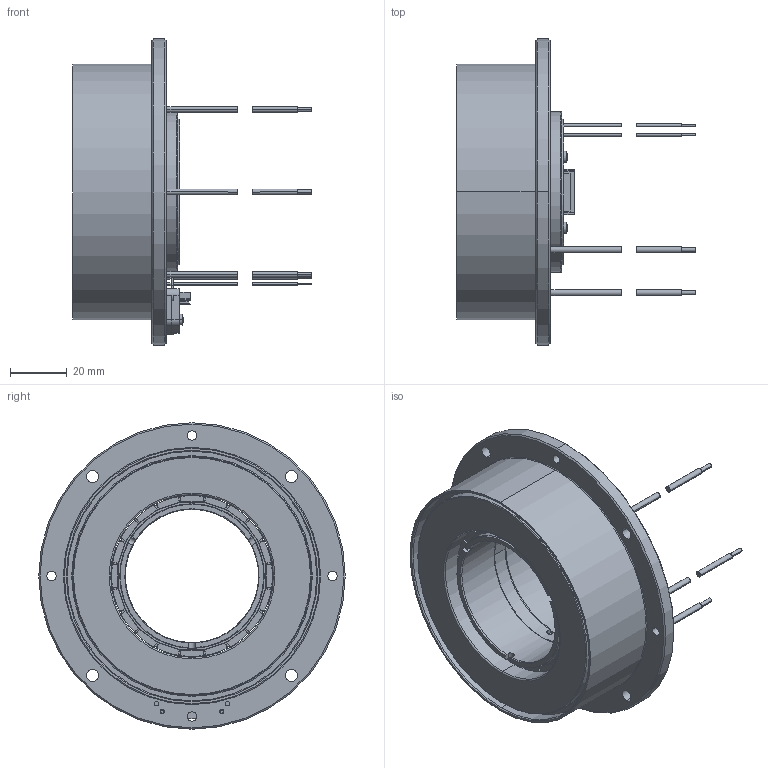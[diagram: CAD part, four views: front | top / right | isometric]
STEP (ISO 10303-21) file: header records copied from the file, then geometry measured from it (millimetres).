
FILE_DESCRIPTION((''),'2;1');
FILE_NAME('9688216_SW0001','2022-11-15T15:54:49',('MMAGVISI'),(''),'CREO PARAMETRIC BY PTC INC, 2020342','CREO PARAMETRIC BY PTC INC, 2020342','');
FILE_SCHEMA(('CONFIG_CONTROL_DESIGN','SHAPE_APPEARANCE_LAYERS_GROUPS'));
Length unit declared in the file: millimetre
Products named in the file (1): 9688216_SW0001
Bounding box: 84.22 x 108 x 108 mm (x, y, z)
Volume: 150080.9 mm3; surface area: 55589.4 mm2
Topology: 27 solids, 27 shells, 1190 faces, 3097 edges, 2017 vertices
Faces by surface type: plane 766, cylinder 286, torus 80, cone 54, sphere 4
Entity records: 47244 total; most frequent: CARTESIAN_POINT 8427, ORIENTED_EDGE 6194, DIRECTION 5807, PRESENTATION_STYLE_ASSIGNMENT 3124, STYLED_ITEM 3124, CURVE_STYLE 3097, EDGE_CURVE 3097, VECTOR 2087
